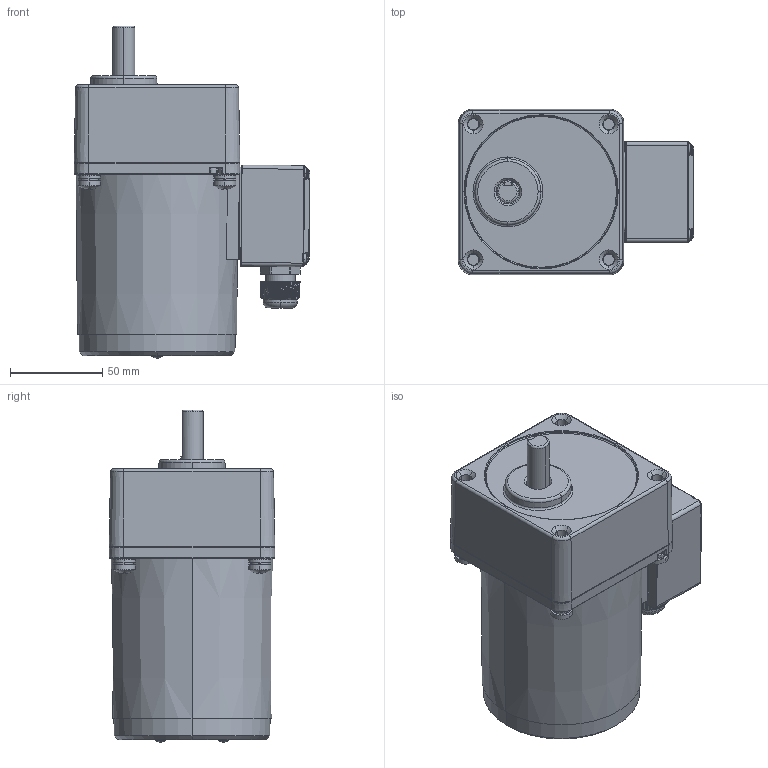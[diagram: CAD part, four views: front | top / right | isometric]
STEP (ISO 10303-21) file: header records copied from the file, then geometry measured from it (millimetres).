
FILE_DESCRIPTION (( 'STEP AP203' ), '1' );
FILE_NAME ('5RK40GN-CT(5GN3K-18K).STEP', '2023-08-08T05:30:31', ( 'Windows User' ), ( 'P R C' ), 'SwSTEP 2.0', 'SolidWorks 2019', '' );
FILE_SCHEMA (( 'CONFIG_CONTROL_DESIGN' ));
Length unit declared in the file: millimetre
Products named in the file (17): ^5RK40GN-CT(5GN3K-18K)(2)_5RK40GN-CT(5GN3K-18K); 5GN3K-18K^5RK40GN-CT(5GN3K-18K)(2)_5RK40GN-CT(5GN3K-18K); ^_____5RK40GN-CT(5GN3K-18K)(2)_5RK40GN-CT(5GN3K-18K); 5RK40GN-CT(5GN3K-18K); 葩璃 (2) ^_____5RK40GN-CT(5GN3K-18K)(2)_5RK40GN-CT(5GN3K-18K); 葩璃 (3) ^_____5RK40GN-CT(5GN3K-18K)(2)_5RK40GN-CT(5GN3K-18K); ^____5RK40GN-CT(5GN3K-18K)(2)_5RK40GN-CT(5GN3K-18K); 葩璃 (4) ^_____5RK40GN-CT(5GN3K-18K)(2)_5RK40GN-CT(5GN3K-18K); 葩璃 (2) ^_5RK40GN-CT(5GN3K-18K)(2)_5RK40GN-CT(5GN3K-18K); ^___5RK40GN-CT(5GN3K-18K)(2)_5RK40GN-CT(5GN3K-18K); 葩璃 (5) ^_____5RK40GN-CT(5GN3K-18K)(2)_5RK40GN-CT(5GN3K-18K); 葩璃 (6) ^_____5RK40GN-CT(5GN3K-18K)(2)_5RK40GN-CT(5GN3K-18K); 5RK40GN-CT(5GN3K-18K)(2)^5RK40GN-CT(5GN3K-18K); ^__5RK40GN-CT(5GN3K-18K)(2)_5RK40GN-CT(5GN3K-18K); ^_5RK40GN-CT(5GN3K-18K)(2)_5RK40GN-CT(5GN3K-18K)
Assembly tree (17 placements, depth 8):
  5RK40GN-CT(5GN3K-18K)
    5RK40GN-CT(5GN3K-18K)(2)^5RK40GN-CT(5GN3K-18K)
      ^5RK40GN-CT(5GN3K-18K)(2)_5RK40GN-CT(5GN3K-18K)
        ^_5RK40GN-CT(5GN3K-18K)(2)_5RK40GN-CT(5GN3K-18K)
          ^__5RK40GN-CT(5GN3K-18K)(2)_5RK40GN-CT(5GN3K-18K)
            ^___5RK40GN-CT(5GN3K-18K)(2)_5RK40GN-CT(5GN3K-18K)
              ^____5RK40GN-CT(5GN3K-18K)(2)_5RK40GN-CT(5GN3K-18K)
                ^_____5RK40GN-CT(5GN3K-18K)(2)_5RK40GN-CT(5GN3K-18K)
                葩璃 (2) ^_____5RK40GN-CT(5GN3K-18K)(2)_5RK40GN-CT(5GN3K-18K)
                葩璃 (3) ^_____5RK40GN-CT(5GN3K-18K)(2)_5RK40GN-CT(5GN3K-18K)
                葩璃 (4) ^_____5RK40GN-CT(5GN3K-18K)(2)_5RK40GN-CT(5GN3K-18K)
                葩璃 (5) ^_____5RK40GN-CT(5GN3K-18K)(2)_5RK40GN-CT(5GN3K-18K)
                葩璃 (6) ^_____5RK40GN-CT(5GN3K-18K)(2)_5RK40GN-CT(5GN3K-18K)
            ^___5RK40GN-CT(5GN3K-18K)(2)_5RK40GN-CT(5GN3K-18K)
        ^_5RK40GN-CT(5GN3K-18K)(2)_5RK40GN-CT(5GN3K-18K)
        葩璃 (2) ^_5RK40GN-CT(5GN3K-18K)(2)_5RK40GN-CT(5GN3K-18K)  x2
      5GN3K-18K^5RK40GN-CT(5GN3K-18K)(2)_5RK40GN-CT(5GN3K-18K)
Bounding box: 127.95 x 90 x 180.35 mm (x, y, z)
Volume: 1095785.2 mm3; surface area: 121347.2 mm2
Topology: 41 solids, 41 shells, 1957 faces, 4996 edges, 3127 vertices
Faces by surface type: cylinder 684, plane 519, cone 503, torus 109, sphere 96, bspline 46
Entity records: 62829 total; most frequent: CARTESIAN_POINT 16204, DIRECTION 10091, ORIENTED_EDGE 9224, EDGE_CURVE 4612, AXIS2_PLACEMENT_3D 4194, VERTEX_POINT 2919, CIRCLE 2386, EDGE_LOOP 1921
